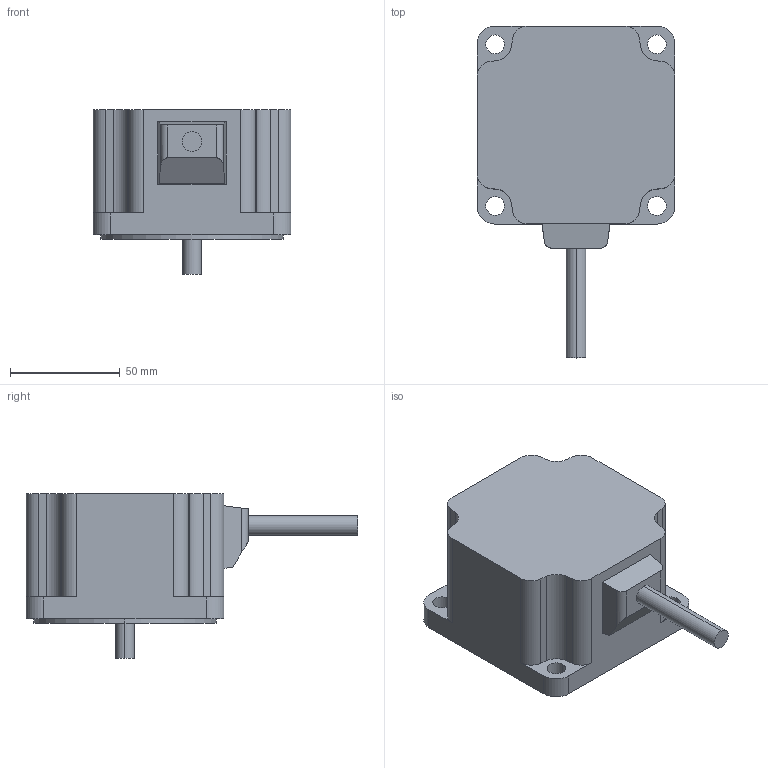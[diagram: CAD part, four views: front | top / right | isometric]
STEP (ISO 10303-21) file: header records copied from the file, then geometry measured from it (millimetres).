
FILE_DESCRIPTION (( 'STEP AP203' ), '1' );
FILE_NAME ('A1888-GN.step', '2024-04-24T06:21:29', ( '' ), ( '' ), 'SwSTEP 2.0', 'SolidWorks 2023', '' );
FILE_SCHEMA (( 'CONFIG_CONTROL_DESIGN' ));
Length unit declared in the file: millimetre
Products named in the file (1): A1888-GN
Bounding box: 90 x 151 x 75 mm (x, y, z)
Volume: 432547.4 mm3; surface area: 38497.6 mm2
Topology: 1 solids, 1 shells, 59 faces, 159 edges, 106 vertices
Faces by surface type: cylinder 32, plane 27
Entity records: 1966 total; most frequent: CARTESIAN_POINT 337, DIRECTION 335, ORIENTED_EDGE 318, EDGE_CURVE 159, AXIS2_PLACEMENT_3D 120, VERTEX_POINT 106, VECTOR 95, LINE 95
